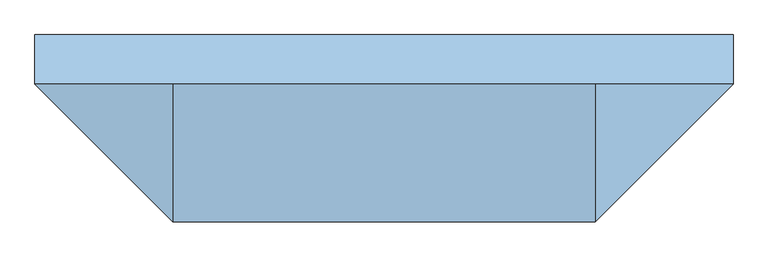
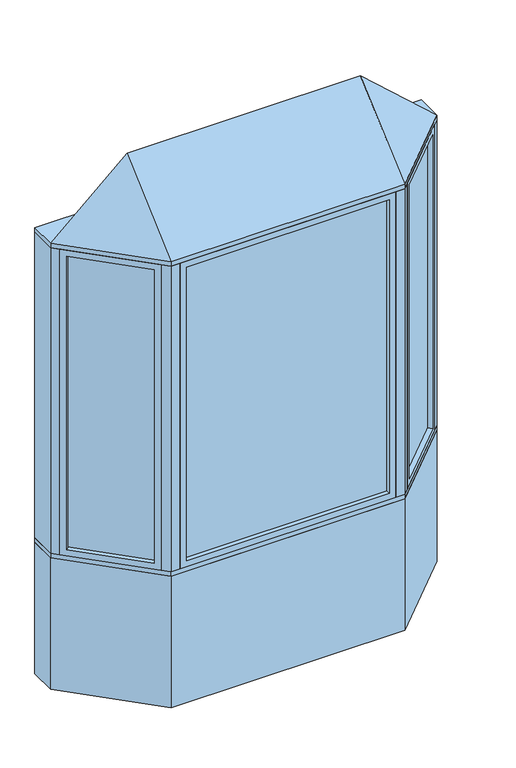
"""IFC4 building model written with IfcOpenShell, lengths in millimetres: window geometry, Pollard_Windows_Tudor Casement Bows and Bays : AML-BAY 45 AFR0618-10-500."""

from ifc_helpers import new_model, si_unit, frame, origin, origin_with_axes, place, context, project, spatial, polyline, outline, extrude, faceted_brep, source, transform, mapped, element, save


def window_fa84ad74(model_context):
    return source(origin(), model_context, "Body", "SolidModel", [
        extrude(outline(polyline([(1010.5964271, -104.763169), (684.824814, -430.5347822), (681.2327115, -426.9426797), (1007.0043247, -101.1710666), (1010.5964271, -104.763169)])), frame((0.0, 0.0, 823.1628), z_axis=(0.0, 0.0, 1.0), x_axis=(1.0, 0.0, 0.0)), (0.0, 0.0, 1.0), 1753.6704),
        faceted_brep([(1001.616171, -113.7434252, 835.8628), (1019.5766833, -131.7039374, 835.8628), (1019.5766833, -131.7039374, 2564.1332), (1001.616171, -113.7434252, 2564.1332), (1007.0043247, -101.1710666, 823.1628), (1010.5964271, -104.763169, 823.1628), (1010.5964271, -104.763169, 2576.8332), (1007.0043247, -101.1710666, 2576.8332), (980.0635563, -92.1908105, 835.8628), (998.0240686, -110.1513227, 835.8628), (998.0240686, -110.1513227, 2564.1332), (980.0635563, -92.1908105, 2564.1332), (1044.9369265, -106.3436941, 799.998), (1005.4237996, -66.8305672, 799.998), (1005.4237996, -66.8305672, 2599.998), (1044.9369265, -106.3436941, 2599.998), (711.7655823, -439.5150383, 2564.1332), (693.8050701, -421.5545261, 2564.1332), (684.824814, -430.5347822, 2576.8332), (681.2327115, -426.9426797, 2576.8332), (690.2129677, -417.9624236, 2564.1332), (672.2524554, -400.0019114, 2564.1332), (646.8922121, -425.3621547, 2599.998), (686.4053391, -464.8752816, 2599.998), (711.7655823, -439.5150383, 835.8628), (693.8050701, -421.5545261, 835.8628), (684.824814, -430.5347822, 823.1628), (681.2327115, -426.9426797, 823.1628), (690.2129677, -417.9624236, 835.8628), (672.2524554, -400.0019114, 835.8628), (646.8922121, -425.3621547, 799.998), (686.4053391, -464.8752816, 799.998)], [[[0, 1, 2, 3]], [[4, 5, 6, 7]], [[8, 9, 10, 11]], [[12, 13, 14, 15]], [[3, 2, 16, 17]], [[7, 6, 18, 19]], [[11, 10, 20, 21]], [[15, 14, 22, 23]], [[17, 16, 24, 25]], [[19, 18, 26, 27]], [[21, 20, 28, 29]], [[23, 22, 30, 31]], [[25, 24, 1, 0]], [[5, 26, 18, 6], [3, 17, 25, 0]], [[27, 26, 5, 4]], [[7, 19, 27, 4], [9, 28, 20, 10]], [[29, 28, 9, 8]], [[13, 30, 22, 14], [11, 21, 29, 8]], [[31, 30, 13, 12]], [[15, 23, 31, 12], [1, 24, 16, 2]]]),
        extrude(outline(polyline([(-684.824814, -430.5347822), (-1010.5964271, -104.763169), (-1007.0043247, -101.1710666), (-681.2327115, -426.9426797), (-684.824814, -430.5347822)])), frame((0.0, 0.0, 823.1628), z_axis=(0.0, 0.0, 1.0), x_axis=(1.0, 0.0, 0.0)), (0.0, 0.0, 1.0), 1753.6704),
        faceted_brep([(-690.2129677, -417.9624236, 2564.1332), (-672.2524554, -400.0019114, 2564.1332), (-672.2524554, -400.0019114, 835.8628), (-690.2129677, -417.9624236, 835.8628), (-684.824814, -430.5347822, 2576.8332), (-681.2327115, -426.9426797, 2576.8332), (-681.2327115, -426.9426797, 823.1628), (-684.824814, -430.5347822, 823.1628), (-711.7655823, -439.5150383, 2564.1332), (-693.8050701, -421.5545261, 2564.1332), (-693.8050701, -421.5545261, 835.8628), (-711.7655823, -439.5150383, 835.8628), (-646.8922121, -425.3621547, 2599.998), (-686.4053391, -464.8752816, 2599.998), (-686.4053391, -464.8752816, 799.998), (-646.8922121, -425.3621547, 799.998), (-980.0635563, -92.1908105, 835.8628), (-998.0240686, -110.1513227, 835.8628), (-1007.0043247, -101.1710666, 823.1628), (-1010.5964271, -104.763169, 823.1628), (-1001.616171, -113.7434252, 835.8628), (-1019.5766833, -131.7039374, 835.8628), (-1044.9369265, -106.3436941, 799.998), (-1005.4237996, -66.8305672, 799.998), (-980.0635563, -92.1908105, 2564.1332), (-998.0240686, -110.1513227, 2564.1332), (-1007.0043247, -101.1710666, 2576.8332), (-1010.5964271, -104.763169, 2576.8332), (-1001.616171, -113.7434252, 2564.1332), (-1019.5766833, -131.7039374, 2564.1332), (-1044.9369265, -106.3436941, 2599.998), (-1005.4237996, -66.8305672, 2599.998)], [[[0, 1, 2, 3]], [[4, 5, 6, 7]], [[8, 9, 10, 11]], [[12, 13, 14, 15]], [[3, 2, 16, 17]], [[7, 6, 18, 19]], [[11, 10, 20, 21]], [[15, 14, 22, 23]], [[17, 16, 24, 25]], [[19, 18, 26, 27]], [[21, 20, 28, 29]], [[23, 22, 30, 31]], [[15, 23, 31, 12], [1, 24, 16, 2]], [[25, 24, 1, 0]], [[5, 26, 18, 6], [3, 17, 25, 0]], [[27, 26, 5, 4]], [[7, 19, 27, 4], [9, 28, 20, 10]], [[29, 28, 9, 8]], [[13, 30, 22, 14], [11, 21, 29, 8]], [[31, 30, 13, 12]]]),
        extrude(outline(polyline([(577.8852, -474.8306207), (-577.8852, -474.8306207), (-577.8852, -469.7506207), (577.8852, -469.7506207), (577.8852, -474.8306207)])), frame((0.0, 0.0, 823.1628), z_axis=(0.0, 0.0, 1.0), x_axis=(1.0, 0.0, 0.0)), (0.0, 0.0, 1.0), 1753.6704),
        faceted_brep([(565.1852, -474.8306207, 835.8628), (565.1852, -500.2306207, 835.8628), (565.1852, -500.2306207, 2564.1332), (565.1852, -474.8306207, 2564.1332), (577.8852, -469.7506207, 823.1628), (577.8852, -474.8306207, 823.1628), (577.8852, -474.8306207, 2576.8332), (577.8852, -469.7506207, 2576.8332), (565.1852, -444.3506207, 835.8628), (565.1852, -469.7506207, 835.8628), (565.1852, -469.7506207, 2564.1332), (565.1852, -444.3506207, 2564.1332), (601.05, -500.2306207, 799.998), (601.05, -444.3506207, 799.998), (601.05, -444.3506207, 2599.998), (601.05, -500.2306207, 2599.998), (-565.1852, -500.2306207, 2564.1332), (-565.1852, -474.8306207, 2564.1332), (-577.8852, -474.8306207, 2576.8332), (-577.8852, -469.7506207, 2576.8332), (-565.1852, -469.7506207, 2564.1332), (-565.1852, -444.3506207, 2564.1332), (-601.05, -444.3506207, 2599.998), (-601.05, -500.2306207, 2599.998), (-565.1852, -500.2306207, 835.8628), (-565.1852, -474.8306207, 835.8628), (-577.8852, -474.8306207, 823.1628), (-577.8852, -469.7506207, 823.1628), (-565.1852, -469.7506207, 835.8628), (-565.1852, -444.3506207, 835.8628), (-601.05, -444.3506207, 799.998), (-601.05, -500.2306207, 799.998)], [[[0, 1, 2, 3]], [[4, 5, 6, 7]], [[8, 9, 10, 11]], [[12, 13, 14, 15]], [[3, 2, 16, 17]], [[7, 6, 18, 19]], [[11, 10, 20, 21]], [[15, 14, 22, 23]], [[17, 16, 24, 25]], [[19, 18, 26, 27]], [[21, 20, 28, 29]], [[23, 22, 30, 31]], [[15, 23, 31, 12], [1, 24, 16, 2]], [[25, 24, 1, 0]], [[5, 26, 18, 6], [3, 17, 25, 0]], [[27, 26, 5, 4]], [[7, 19, 27, 4], [9, 28, 20, 10]], [[29, 28, 9, 8]], [[13, 30, 22, 14], [11, 21, 29, 8]], [[31, 30, 13, 12]]]),
        faceted_brep([(1076.5, -74.7806207, 2625.398), (651.05, -500.2306207, 2625.398), (-651.05, -500.2306207, 2625.398), (-1076.5, -74.7806207, 2625.398), (-651.05, -74.7806207, 3006.398), (651.05, -74.7806207, 3006.398)], [[[0, 1, 2, 3]], [[3, 2, 4]], [[2, 1, 5, 4]], [[1, 0, 5]], [[0, 3, 4, 5]]]),
        extrude(outline(polyline([(-1076.5, 77.6193793), (1076.5, 77.6193793), (1076.5, -74.7806207), (651.05, -500.2306207), (-651.05, -500.2306207), (-1076.5, -74.7806207), (-1076.5, 77.6193793)])), frame((0.0, 0.0, 2599.998), z_axis=(0.0, 0.0, 1.0), x_axis=(1.0, 0.0, 0.0)), (0.0, 0.0, 1.0), 25.4),
        extrude(outline(polyline([(-1076.5, -74.7806207), (-1076.5, 77.6193793), (-1013.3738531, 77.6193793), (-1013.3738531, -74.7806207), (-1044.9369265, -106.3436941), (-1076.5, -74.7806207)])), frame((0.0, 0.0, 799.998), z_axis=(0.0, 0.0, 1.0), x_axis=(1.0, 0.0, 0.0)), (0.0, 0.0, 1.0), 1800.0),
        extrude(outline(polyline([(1076.5, 77.6193793), (1076.5, -74.7806207), (1044.9369265, -106.3436941), (1013.3738531, -74.7806207), (1013.3738531, 77.6193793), (1076.5, 77.6193793)])), frame((0.0, 0.0, 799.998), z_axis=(0.0, 0.0, 1.0), x_axis=(1.0, 0.0, 0.0)), (0.0, 0.0, 1.0), 1800.0),
        extrude(outline(polyline([(651.05, -500.2306207), (601.05, -500.2306207), (601.05, -450.2306207), (630.3393219, -450.2306207), (651.05, -429.5199425), (686.4053391, -464.8752816), (651.05, -500.2306207)])), frame((0.0, 0.0, 799.998), z_axis=(0.0, 0.0, 1.0), x_axis=(1.0, 0.0, 0.0)), (0.0, 0.0, 1.0), 1800.0),
        extrude(outline(polyline([(-651.05, -500.2306207), (-686.4053391, -464.8752816), (-651.05, -429.5199425), (-630.3393219, -450.2306207), (-601.05, -450.2306207), (-601.05, -500.2306207), (-651.05, -500.2306207)])), frame((0.0, 0.0, 799.998), z_axis=(0.0, 0.0, 1.0), x_axis=(1.0, 0.0, 0.0)), (0.0, 0.0, 1.0), 1800.0),
        extrude(outline(polyline([(-651.05, -500.2306207), (-1076.5, -74.7806207), (-1076.5, 77.6193793), (-1013.3738531, 77.6193793), (-587.9238531, -347.8306207), (587.9238531, -347.8306207), (1013.3738531, 77.6193793), (1076.5, 77.6193793), (1076.5, -74.7806207), (651.05, -500.2306207), (-651.05, -500.2306207)])), frame((0.0, 0.0, 774.598), z_axis=(0.0, 0.0, 1.0), x_axis=(1.0, 0.0, 0.0)), (0.0, 0.0, 1.0), 25.4),
        extrude(outline(polyline([(-1076.5, -74.7806207), (-1076.5, 77.6193793), (-1013.3738531, 77.6193793), (-587.9238531, -347.8306207), (587.9238531, -347.8306207), (1013.3738531, 77.6193793), (1076.5, 77.6193793), (1076.5, -74.7806207), (651.05, -500.2306207), (-651.05, -500.2306207), (-1076.5, -74.7806207)])), origin_with_axes(), (0.0, 0.0, 1.0), 774.598),
    ])


if __name__ == "__main__":
    model = new_model("IFC4")
    model_context = context("Model", 3, world=origin())
    ifc_project = project(units=[si_unit("LENGTHUNIT", "METRE", prefix="MILLI")], contexts=[model_context])
    site = spatial("IfcSite", under=ifc_project)
    building = spatial("IfcBuilding", under=site)
    placement = place(None, origin())
    window_shape = window_fa84ad74(model_context)
    element("IfcWindow", 1, ObjectType="Pollard_Windows_Tudor Casement Bows and Bays : AML-BAY 45 AFR0618-10-500", at=placement, inside=building, context=model_context, shape_type="MappedRepresentation", body=[
        mapped(window_shape, transform((0.0, 0.0, 0.0), x_axis=(1.0, 0.0, 0.0), y_axis=(0.0, 1.0, 0.0), z_axis=(0.0, 0.0, 1.0))),
    ])
    save(model, "model.ifc")
